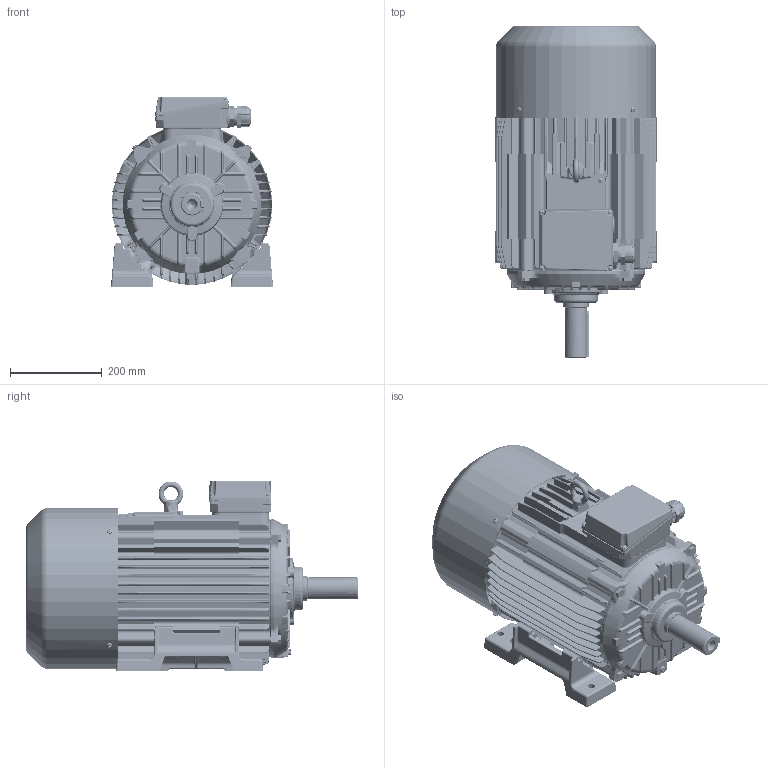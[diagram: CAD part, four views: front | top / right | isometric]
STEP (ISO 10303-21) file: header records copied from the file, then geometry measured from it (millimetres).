
FILE_DESCRIPTION(/* description */ ('Unknown'),/* implementation_level */ '2;1');
FILE_NAME(/* name */ 'S-116-02-2020',/* time_stamp */ '2021-06-28T13:14:47+02:00',/* author */ ('Unknown'),/* organization */ ('Unknown'),/* preprocessor_version */ 'ST-DEVELOPER v16.7',/* originating_system */ 'DEX',/* authorisation */ $);
FILE_SCHEMA (('AUTOMOTIVE_DESIGN {1 0 10303 214 3 1 1}'));
Length unit declared in the file: millimetre
Products named in the file (43): S-116-01-2020; 6205-001-01_oa_0; Bearing_DIN_625_1_1989_6311_v12.00; Washer_DIN_127_B_12_v14.00; 6115-002-03; 6110-004-10; Screw_DIN_EN_ISO_4762_M12x45_v14.00; AB 14x9x100; zestawienie skrzynki 160,180 ; D³awik M40; Uszczelka M40; Nakrêtka M40; SDh-19-56_6; RDg-59-12; Screw_DIN_EN_ISO_7045_M6x16_H_v12.00; QDg-53-05_1 z uszczelk¹; QDg-53-05_1; SDg-53-03_2 Sg 160-180; Screw_DIN_EN_ISO_7045_M5x20_H_v12.00; Screw_DIN_EN_ISO_7045_M6x20_H_v12.00; Washer_DIN_127_B_6_v14.00; Washer_DIN_EN_ISO_7092_2000_6.0_v12.00; QDg-53-29_1; Œruby z uchem 82472_M12; Screw_DIN_EN_24017_M12x40_v12.00; Screw_DIN_EN_ISO_4762_M12x40_v14.00; 6105-002-01_EGA; 6105-002-01_EGA_oa_1; 6195-002-01_oa_2; 6195-002-02_oa_3; Washer_DIN_125_1_A_13_v12.00; Washer_DIN_127_B_12_v14.00_odb; Screw_DIN_EN_ISO_7045_M6x10_H_v12.00; SPg-39-66_poz.6; M6; Screw_DIN_EN_ISO_7045_M6x14_H_v12.00; SNG-49-38; PVg-69-06_16; 3SIE180M2; RVg-69-243_2
Assembly tree (67 placements, depth 4):
  S-116-01-2020
    6205-001-01_oa_0
    Bearing_DIN_625_1_1989_6311_v12.00  x2
    Washer_DIN_127_B_12_v14.00  x2
    6115-002-03
    6110-004-10
    Screw_DIN_EN_ISO_4762_M12x45_v14.00  x4
    AB 14x9x100
    zestawienie skrzynki 160,180 
      D³awik M40
        Uszczelka M40
        D³awik M40
        Nakrêtka M40
      SDh-19-56_6
      RDg-59-12
      Screw_DIN_EN_ISO_7045_M6x16_H_v12.00  x3
      QDg-53-05_1 z uszczelk¹
        QDg-53-05_1
        SDg-53-03_2 Sg 160-180
      Screw_DIN_EN_ISO_7045_M5x20_H_v12.00  x4
      Screw_DIN_EN_ISO_7045_M6x20_H_v12.00
      Washer_DIN_127_B_6_v14.00
      Washer_DIN_EN_ISO_7092_2000_6.0_v12.00  x2
      QDg-53-29_1
    Œruby z uchem 82472_M12
    Screw_DIN_EN_24017_M12x40_v12.00  x4
    Screw_DIN_EN_ISO_4762_M12x40_v14.00  x4
    6105-002-01_EGA
      6105-002-01_EGA_oa_1
      6195-002-01_oa_2
      6195-002-02_oa_3
    Washer_DIN_125_1_A_13_v12.00  x4
    Washer_DIN_127_B_12_v14.00_odb  x2
    Screw_DIN_EN_ISO_7045_M6x10_H_v12.00  x4
    SPg-39-66_poz.6
    M6
      Washer_DIN_EN_ISO_7092_2000_6.0_v12.00  x2
      Washer_DIN_127_B_6_v14.00
      Screw_DIN_EN_ISO_7045_M6x14_H_v12.00
    SNG-49-38
    PVg-69-06_16
    3SIE180M2
    RVg-69-243_2
Bounding box: 353.4 x 723 x 414.32 mm (x, y, z)
Volume: 26008890.9 mm3; surface area: 3855211.3 mm2
Topology: 82 solids, 100 shells, 10974 faces, 28365 edges, 17398 vertices
Faces by surface type: cylinder 3776, plane 3675, bspline 2385, torus 612, cone 312, sphere 214
Full cylindrical faces by diameter (mm): 3 x8, 4 x1, 4.2 x4, 4.917 x11, 5 x5, 5.3 x4, 5.5 x4, 6 x9, 6.4 x8, 6.5 x1, 6.647 x1, 7 x2, 8 x1, 9 x1, 9.4 x1, 9.5 x4, 9.853 x4, 10 x4, 10.106 x18, 10.2 x4, 11 x4, 12 x26, 13 x4, 13.5 x8, 14.5 x1, 15 x10, 16 x1, 16.63 x4, 17 x1, 18 x8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
Entity records: 475653 total; most frequent: CARTESIAN_POINT 189988, ORIENTED_EDGE 52892, DIRECTION 46611, EDGE_CURVE 26446, AXIS2_PLACEMENT_3D 17399, VERTEX_POINT 16585, FACE_BOUND 11949, EDGE_LOOP 11917
